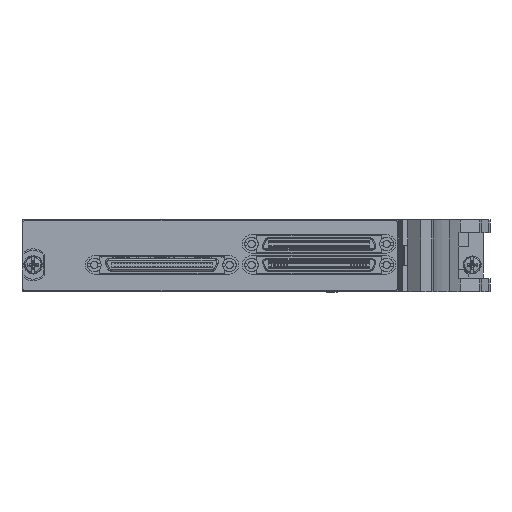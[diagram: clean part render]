
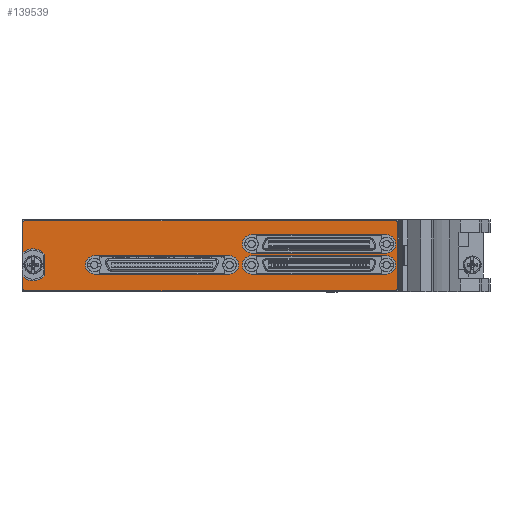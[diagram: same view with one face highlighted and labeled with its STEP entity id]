
A CAD part, left-side view. The second image highlights one B-rep face of the part: STEP entity #139539.
In plain terms, the highlighted planar face has unit normal (-1, 0, 0).
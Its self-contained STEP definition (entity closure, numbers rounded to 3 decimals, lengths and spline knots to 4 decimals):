
#23600=CARTESIAN_POINT('',(-0.215,0.5347,0.665));
#23601=DIRECTION('',(-1.,0.,0.));
#23602=DIRECTION('',(0.,0.,1.));
#23603=AXIS2_PLACEMENT_3D('',#23600,#23601,#23602);
#23605=DIRECTION('',(0.,1.,0.));
#23606=VECTOR('',#23605,4.07);
#23607=CARTESIAN_POINT('',(-0.215,-3.5354,0.685));
#23608=LINE('',#23607,#23606);
#23609=CARTESIAN_POINT('',(-0.215,-3.5354,0.665));
#23610=DIRECTION('',(-1.,0.,0.));
#23611=DIRECTION('',(0.,-1.,0.));
#23612=AXIS2_PLACEMENT_3D('',#23609,#23610,#23611);
#23614=DIRECTION('',(0.,0.,1.));
#23615=VECTOR('',#23614,0.728);
#23616=CARTESIAN_POINT('',(-0.215,-3.5554,-0.063));
#23617=LINE('',#23616,#23615);
#23618=CARTESIAN_POINT('',(-0.215,-3.5354,-0.063));
#23619=DIRECTION('',(-1.,0.,0.));
#23620=DIRECTION('',(0.,0.,-1.));
#23621=AXIS2_PLACEMENT_3D('',#23618,#23619,#23620);
#23623=DIRECTION('',(0.,-1.,0.));
#23624=VECTOR('',#23623,4.07);
#23625=CARTESIAN_POINT('',(-0.215,0.5347,-0.083));
#23626=LINE('',#23625,#23624);
#23627=CARTESIAN_POINT('',(-0.215,0.5347,-0.063));
#23628=DIRECTION('',(-1.,0.,0.));
#23629=DIRECTION('',(0.,1.,0.));
#23630=AXIS2_PLACEMENT_3D('',#23627,#23628,#23629);
#23632=DIRECTION('',(0.,0.,-1.));
#23633=VECTOR('',#23632,0.1295);
#23634=CARTESIAN_POINT('',(-0.215,0.5547,0.0665));
#23635=LINE('',#23634,#23633);
#23636=CARTESIAN_POINT('',(-0.215,0.4427,0.201));
#23637=DIRECTION('',(1.,0.,0.));
#23638=DIRECTION('',(0.,-0.737,-0.676));
#23639=AXIS2_PLACEMENT_3D('',#23636,#23637,#23638);
#23641=DIRECTION('',(0.,0.,-1.));
#23642=VECTOR('',#23641,0.2365);
#23643=CARTESIAN_POINT('',(-0.215,0.3137,0.3193));
#23644=LINE('',#23643,#23642);
#23645=CARTESIAN_POINT('',(-0.215,0.4427,0.201));
#23646=DIRECTION('',(1.,0.,0.));
#23647=DIRECTION('',(0.,0.64,0.768));
#23648=AXIS2_PLACEMENT_3D('',#23645,#23646,#23647);
#23650=DIRECTION('',(0.,0.,-1.));
#23651=VECTOR('',#23650,0.3295);
#23652=CARTESIAN_POINT('',(-0.215,0.5547,0.665));
#23653=LINE('',#23652,#23651);
#23654=CARTESIAN_POINT('',(-0.215,-0.2289,0.1998));
#23655=DIRECTION('',(-1.,0.,0.));
#23656=DIRECTION('',(0.,0.,1.));
#23657=AXIS2_PLACEMENT_3D('',#23654,#23655,#23656);
#23659=DIRECTION('',(0.,-1.,0.));
#23660=VECTOR('',#23659,1.4843);
#23661=CARTESIAN_POINT('',(-0.215,-0.2289,0.0998));
#23662=LINE('',#23661,#23660);
#23663=CARTESIAN_POINT('',(-0.215,-1.7131,0.1998));
#23664=DIRECTION('',(-1.,0.,0.));
#23665=DIRECTION('',(0.,0.,-1.));
#23666=AXIS2_PLACEMENT_3D('',#23663,#23664,#23665);
#23668=DIRECTION('',(0.,1.,0.));
#23669=VECTOR('',#23668,1.4843);
#23670=CARTESIAN_POINT('',(-0.215,-1.7131,0.2998));
#23671=LINE('',#23670,#23669);
#23672=CARTESIAN_POINT('',(-0.215,-1.9549,0.4297));
#23673=DIRECTION('',(-1.,0.,0.));
#23674=DIRECTION('',(0.,0.,1.));
#23675=AXIS2_PLACEMENT_3D('',#23672,#23673,#23674);
#23677=DIRECTION('',(0.,-1.,0.));
#23678=VECTOR('',#23677,1.4843);
#23679=CARTESIAN_POINT('',(-0.215,-1.9549,0.3297));
#23680=LINE('',#23679,#23678);
#23681=CARTESIAN_POINT('',(-0.215,-3.4391,0.4297));
#23682=DIRECTION('',(-1.,0.,0.));
#23683=DIRECTION('',(0.,0.,-1.));
#23684=AXIS2_PLACEMENT_3D('',#23681,#23682,#23683);
#23686=DIRECTION('',(0.,1.,0.));
#23687=VECTOR('',#23686,1.4843);
#23688=CARTESIAN_POINT('',(-0.215,-3.4391,0.5297));
#23689=LINE('',#23688,#23687);
#23690=CARTESIAN_POINT('',(-0.215,-1.9549,0.1998));
#23691=DIRECTION('',(-1.,0.,0.));
#23692=DIRECTION('',(0.,0.,1.));
#23693=AXIS2_PLACEMENT_3D('',#23690,#23691,#23692);
#23695=DIRECTION('',(0.,-1.,0.));
#23696=VECTOR('',#23695,1.4843);
#23697=CARTESIAN_POINT('',(-0.215,-1.9549,0.0998));
#23698=LINE('',#23697,#23696);
#23699=CARTESIAN_POINT('',(-0.215,-3.4391,0.1998));
#23700=DIRECTION('',(-1.,0.,0.));
#23701=DIRECTION('',(0.,0.,-1.));
#23702=AXIS2_PLACEMENT_3D('',#23699,#23700,#23701);
#23704=DIRECTION('',(0.,1.,0.));
#23705=VECTOR('',#23704,1.4843);
#23706=CARTESIAN_POINT('',(-0.215,-3.4391,0.2998));
#23707=LINE('',#23706,#23705);
#90640=CARTESIAN_POINT('',(-0.215,0.5347,0.685));
#90641=CARTESIAN_POINT('',(-0.215,0.5547,0.665));
#90642=VERTEX_POINT('',#90640);
#90643=VERTEX_POINT('',#90641);
#90644=CARTESIAN_POINT('',(-0.215,0.5547,0.3355));
#90645=VERTEX_POINT('',#90644);
#90646=CARTESIAN_POINT('',(-0.215,0.3137,0.3193));
#90647=VERTEX_POINT('',#90646);
#90648=CARTESIAN_POINT('',(-0.215,0.3137,0.0827));
#90649=VERTEX_POINT('',#90648);
#90650=CARTESIAN_POINT('',(-0.215,0.5547,0.0665));
#90651=VERTEX_POINT('',#90650);
#90652=CARTESIAN_POINT('',(-0.215,0.5547,-0.063));
#90653=VERTEX_POINT('',#90652);
#90654=CARTESIAN_POINT('',(-0.215,0.5347,-0.083));
#90655=VERTEX_POINT('',#90654);
#90656=CARTESIAN_POINT('',(-0.215,-3.5354,-0.083));
#90657=VERTEX_POINT('',#90656);
#90658=CARTESIAN_POINT('',(-0.215,-3.5554,-0.063));
#90659=VERTEX_POINT('',#90658);
#90660=CARTESIAN_POINT('',(-0.215,-3.5554,0.665));
#90661=VERTEX_POINT('',#90660);
#90662=CARTESIAN_POINT('',(-0.215,-3.5354,0.685));
#90663=VERTEX_POINT('',#90662);
#90664=CARTESIAN_POINT('',(-0.215,-0.2289,0.2998));
#90665=CARTESIAN_POINT('',(-0.215,-0.2289,0.0998));
#90666=VERTEX_POINT('',#90664);
#90667=VERTEX_POINT('',#90665);
#90668=CARTESIAN_POINT('',(-0.215,-1.7131,0.0998));
#90669=VERTEX_POINT('',#90668);
#90670=CARTESIAN_POINT('',(-0.215,-1.7131,0.2998));
#90671=VERTEX_POINT('',#90670);
#90672=CARTESIAN_POINT('',(-0.215,-1.9549,0.5297));
#90673=CARTESIAN_POINT('',(-0.215,-1.9549,0.3297));
#90674=VERTEX_POINT('',#90672);
#90675=VERTEX_POINT('',#90673);
#90676=CARTESIAN_POINT('',(-0.215,-3.4391,0.3297));
#90677=VERTEX_POINT('',#90676);
#90678=CARTESIAN_POINT('',(-0.215,-3.4391,0.5297));
#90679=VERTEX_POINT('',#90678);
#90680=CARTESIAN_POINT('',(-0.215,-1.9549,0.2998));
#90681=CARTESIAN_POINT('',(-0.215,-1.9549,0.0998));
#90682=VERTEX_POINT('',#90680);
#90683=VERTEX_POINT('',#90681);
#90684=CARTESIAN_POINT('',(-0.215,-3.4391,0.0998));
#90685=VERTEX_POINT('',#90684);
#90686=CARTESIAN_POINT('',(-0.215,-3.4391,0.2998));
#90687=VERTEX_POINT('',#90686);
#139490=CARTESIAN_POINT('',(-0.215,0.4427,0.201));
#139491=DIRECTION('',(-1.,0.,0.));
#139492=DIRECTION('',(0.,0.,1.));
#139493=AXIS2_PLACEMENT_3D('',#139490,#139491,#139492);
#139494=PLANE('',#139493);
#139495=ORIENTED_EDGE('',*,*,#139330,.F.);
#139496=ORIENTED_EDGE('',*,*,#139345,.F.);
#139497=ORIENTED_EDGE('',*,*,#139359,.F.);
#139498=ORIENTED_EDGE('',*,*,#139373,.F.);
#139499=ORIENTED_EDGE('',*,*,#139387,.F.);
#139500=ORIENTED_EDGE('',*,*,#139401,.F.);
#139501=ORIENTED_EDGE('',*,*,#139415,.F.);
#139502=ORIENTED_EDGE('',*,*,#139429,.F.);
#139503=ORIENTED_EDGE('',*,*,#139443,.F.);
#139504=ORIENTED_EDGE('',*,*,#139457,.F.);
#139505=ORIENTED_EDGE('',*,*,#139471,.F.);
#139506=ORIENTED_EDGE('',*,*,#139484,.F.);
#139507=EDGE_LOOP('',(#139495,#139496,#139497,#139498,#139499,#139500,#139501,
#139502,#139503,#139504,#139505,#139506));
#139508=FACE_OUTER_BOUND('',#139507,.F.);
#139510=ORIENTED_EDGE('',*,*,#139509,.T.);
#139512=ORIENTED_EDGE('',*,*,#139511,.T.);
#139514=ORIENTED_EDGE('',*,*,#139513,.T.);
#139516=ORIENTED_EDGE('',*,*,#139515,.T.);
#139517=EDGE_LOOP('',(#139510,#139512,#139514,#139516));
#139518=FACE_BOUND('',#139517,.F.);
#139520=ORIENTED_EDGE('',*,*,#139519,.T.);
#139522=ORIENTED_EDGE('',*,*,#139521,.T.);
#139524=ORIENTED_EDGE('',*,*,#139523,.T.);
#139526=ORIENTED_EDGE('',*,*,#139525,.T.);
#139527=EDGE_LOOP('',(#139520,#139522,#139524,#139526));
#139528=FACE_BOUND('',#139527,.F.);
#139530=ORIENTED_EDGE('',*,*,#139529,.T.);
#139532=ORIENTED_EDGE('',*,*,#139531,.T.);
#139534=ORIENTED_EDGE('',*,*,#139533,.T.);
#139536=ORIENTED_EDGE('',*,*,#139535,.T.);
#139537=EDGE_LOOP('',(#139530,#139532,#139534,#139536));
#139538=FACE_BOUND('',#139537,.F.);
#139539=ADVANCED_FACE('',(#139508,#139518,#139528,#139538),#139494,.T.);
#23604=CIRCLE('',#23603,0.02);
#23613=CIRCLE('',#23612,0.02);
#23622=CIRCLE('',#23621,0.02);
#23631=CIRCLE('',#23630,0.02);
#23640=CIRCLE('',#23639,0.175);
#23649=CIRCLE('',#23648,0.175);
#23658=CIRCLE('',#23657,0.1);
#23667=CIRCLE('',#23666,0.1);
#23676=CIRCLE('',#23675,0.1);
#23685=CIRCLE('',#23684,0.1);
#23694=CIRCLE('',#23693,0.1);
#23703=CIRCLE('',#23702,0.1);
#139330=EDGE_CURVE('',#90642,#90643,#23604,.T.);
#139345=EDGE_CURVE('',#90663,#90642,#23608,.T.);
#139359=EDGE_CURVE('',#90661,#90663,#23613,.T.);
#139373=EDGE_CURVE('',#90659,#90661,#23617,.T.);
#139387=EDGE_CURVE('',#90657,#90659,#23622,.T.);
#139401=EDGE_CURVE('',#90655,#90657,#23626,.T.);
#139415=EDGE_CURVE('',#90653,#90655,#23631,.T.);
#139429=EDGE_CURVE('',#90651,#90653,#23635,.T.);
#139443=EDGE_CURVE('',#90649,#90651,#23640,.T.);
#139457=EDGE_CURVE('',#90647,#90649,#23644,.T.);
#139471=EDGE_CURVE('',#90645,#90647,#23649,.T.);
#139484=EDGE_CURVE('',#90643,#90645,#23653,.T.);
#139509=EDGE_CURVE('',#90666,#90667,#23658,.T.);
#139511=EDGE_CURVE('',#90667,#90669,#23662,.T.);
#139513=EDGE_CURVE('',#90669,#90671,#23667,.T.);
#139515=EDGE_CURVE('',#90671,#90666,#23671,.T.);
#139519=EDGE_CURVE('',#90674,#90675,#23676,.T.);
#139521=EDGE_CURVE('',#90675,#90677,#23680,.T.);
#139523=EDGE_CURVE('',#90677,#90679,#23685,.T.);
#139525=EDGE_CURVE('',#90679,#90674,#23689,.T.);
#139529=EDGE_CURVE('',#90682,#90683,#23694,.T.);
#139531=EDGE_CURVE('',#90683,#90685,#23698,.T.);
#139533=EDGE_CURVE('',#90685,#90687,#23703,.T.);
#139535=EDGE_CURVE('',#90687,#90682,#23707,.T.);
